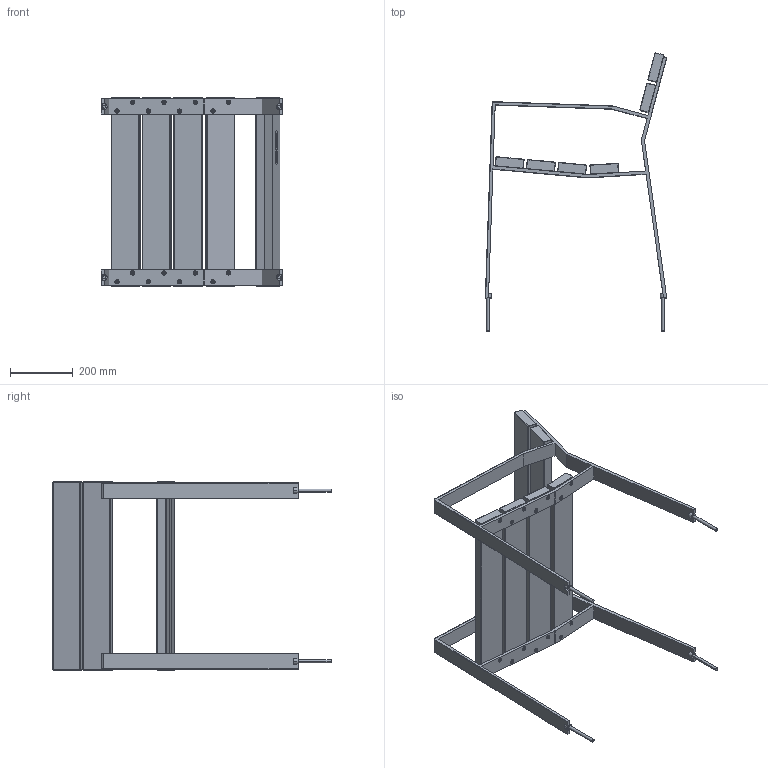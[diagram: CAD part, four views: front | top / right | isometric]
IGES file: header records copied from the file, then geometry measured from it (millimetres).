
Start section: SolidWorks IGES file using analytic representation for surfaces
Global section: file name: C:\SANTACOLE_PDM\Proyectos Catálogo\PROD-P13-073 -- BANCO HARPO\6_Técnico comercial\3D WEB\Banco Harpo 60cm  Madera 9x3cm - Bench Harpo 60cm Wood 9x3cm.IGS; native system: SolidWorks 2013; preprocessor: SolidWorks 2013; author: jordi.munoz; date: 150326.173958; units: millimetre
Bounding box: 578.04 x 886.37 x 600 mm (x, y, z)
Volume: 12086282.9 mm3; surface area: 1510469.6 mm2
Topology: 42 solids, 42 shells, 2257 faces, 5572 edges, 3480 vertices
Faces by surface type: plane 1440, revolution 545, bspline 272
